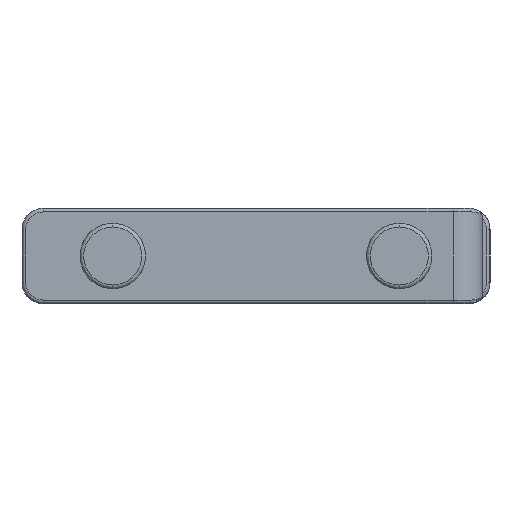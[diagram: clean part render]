
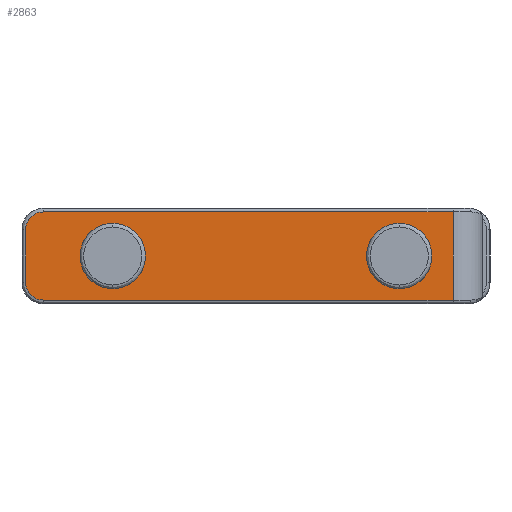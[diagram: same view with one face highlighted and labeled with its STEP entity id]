
A CAD part, left-side view. The second image highlights one B-rep face of the part: STEP entity #2863.
In plain terms, the highlighted planar face has unit normal (-1, 0, 0).
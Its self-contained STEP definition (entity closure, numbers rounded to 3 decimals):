
#63 = VERTEX_POINT ( 'NONE', #760 ) ;
#90 = EDGE_CURVE ( 'NONE', #100, #63, #841, .T. ) ;
#100 = VERTEX_POINT ( 'NONE', #823 ) ;
#127 = VERTEX_POINT ( 'NONE', #853 ) ;
#139 = EDGE_CURVE ( 'NONE', #141, #127, #889, .T. ) ;
#141 = VERTEX_POINT ( 'NONE', #880 ) ;
#207 = ORIENTED_EDGE ( 'NONE', *, *, #216, .T. ) ;
#211 = VERTEX_POINT ( 'NONE', #958 ) ;
#212 = VERTEX_POINT ( 'NONE', #957 ) ;
#214 = ORIENTED_EDGE ( 'NONE', *, *, #232, .T. ) ;
#215 = ORIENTED_EDGE ( 'NONE', *, *, #220, .T. ) ;
#216 = EDGE_CURVE ( 'NONE', #211, #223, #956, .T. ) ;
#219 = EDGE_CURVE ( 'NONE', #127, #141, #948, .T. ) ;
#220 = EDGE_CURVE ( 'NONE', #223, #2865, #940, .T. ) ;
#221 = EDGE_LOOP ( 'NONE', ( #222, #235 ) ) ;
#222 = ORIENTED_EDGE ( 'NONE', *, *, #219, .F. ) ;
#223 = VERTEX_POINT ( 'NONE', #998 ) ;
#232 = EDGE_CURVE ( 'NONE', #233, #212, #994, .T. ) ;
#233 = VERTEX_POINT ( 'NONE', #989 ) ;
#234 = EDGE_CURVE ( 'NONE', #212, #211, #987, .T. ) ;
#235 = ORIENTED_EDGE ( 'NONE', *, *, #139, .F. ) ;
#236 = ORIENTED_EDGE ( 'NONE', *, *, #234, .T. ) ;
#237 = EDGE_CURVE ( 'NONE', #2867, #233, #983, .T. ) ;
#760 = CARTESIAN_POINT ( 'NONE',  ( -433.2, 19.5, -4.45 ) ) ;
#823 = CARTESIAN_POINT ( 'NONE',  ( -433.2, 19.5, 4.45 ) ) ;
#827 = DIRECTION ( 'NONE',  ( 0., 0., -1. ) ) ;
#828 = DIRECTION ( 'NONE',  ( -1., 0., 0. ) ) ;
#829 = AXIS2_PLACEMENT_3D ( 'NONE', #843, #828, #827 ) ;
#841 = CIRCLE ( 'NONE', #829, 4.45 ) ;
#843 = CARTESIAN_POINT ( 'NONE',  ( -433.2, 19.5, 0. ) ) ;
#853 = CARTESIAN_POINT ( 'NONE',  ( -433.2, -19.5, -4.45 ) ) ;
#880 = CARTESIAN_POINT ( 'NONE',  ( -433.2, -19.5, 4.45 ) ) ;
#885 = DIRECTION ( 'NONE',  ( 0., 0., -1. ) ) ;
#886 = DIRECTION ( 'NONE',  ( -1., 0., 0. ) ) ;
#887 = CARTESIAN_POINT ( 'NONE',  ( -433.2, -19.5, 0. ) ) ;
#888 = AXIS2_PLACEMENT_3D ( 'NONE', #887, #886, #885 ) ;
#889 = CIRCLE ( 'NONE', #888, 4.45 ) ;
#939 = CARTESIAN_POINT ( 'NONE',  ( -433.2, -26.82, -6. ) ) ;
#940 = LINE ( 'NONE', #939, #1000 ) ;
#941 = DIRECTION ( 'NONE',  ( 0., 0., -1. ) ) ;
#942 = DIRECTION ( 'NONE',  ( -1., 0., 0. ) ) ;
#943 = CARTESIAN_POINT ( 'NONE',  ( -433.2, -19.5, 0. ) ) ;
#944 = AXIS2_PLACEMENT_3D ( 'NONE', #943, #942, #941 ) ;
#948 = CIRCLE ( 'NONE', #944, 4.45 ) ;
#952 = DIRECTION ( 'NONE',  ( 0., 0., -1. ) ) ;
#953 = DIRECTION ( 'NONE',  ( -1., 0., 0. ) ) ;
#954 = CARTESIAN_POINT ( 'NONE',  ( -433.2, 28.95, -3.6 ) ) ;
#955 = AXIS2_PLACEMENT_3D ( 'NONE', #954, #953, #952 ) ;
#956 = CIRCLE ( 'NONE', #955, 2.4 ) ;
#957 = CARTESIAN_POINT ( 'NONE',  ( -433.2, 31.35, 3.6 ) ) ;
#958 = CARTESIAN_POINT ( 'NONE',  ( -433.2, 31.35, -3.6 ) ) ;
#980 = DIRECTION ( 'NONE',  ( 0., 1., 0. ) ) ;
#981 = VECTOR ( 'NONE', #980, 1000. ) ;
#982 = CARTESIAN_POINT ( 'NONE',  ( -433.2, 28.95, 6. ) ) ;
#983 = LINE ( 'NONE', #982, #981 ) ;
#984 = DIRECTION ( 'NONE',  ( 0., 0., -1. ) ) ;
#985 = VECTOR ( 'NONE', #984, 1000. ) ;
#986 = CARTESIAN_POINT ( 'NONE',  ( -433.2, 31.35, -3.6 ) ) ;
#987 = LINE ( 'NONE', #986, #985 ) ;
#989 = CARTESIAN_POINT ( 'NONE',  ( -433.2, 28.95, 6. ) ) ;
#990 = DIRECTION ( 'NONE',  ( 0., 0., -1. ) ) ;
#991 = DIRECTION ( 'NONE',  ( -1., 0., 0. ) ) ;
#992 = CARTESIAN_POINT ( 'NONE',  ( -433.2, 28.95, 3.6 ) ) ;
#993 = AXIS2_PLACEMENT_3D ( 'NONE', #992, #991, #990 ) ;
#994 = CIRCLE ( 'NONE', #993, 2.4 ) ;
#998 = CARTESIAN_POINT ( 'NONE',  ( -433.2, 28.95, -6. ) ) ;
#999 = DIRECTION ( 'NONE',  ( 0., -1., 0. ) ) ;
#1000 = VECTOR ( 'NONE', #999, 1000. ) ;
#1970 = CARTESIAN_POINT ( 'NONE',  ( -433.2, -26.82, 6. ) ) ;
#1971 = CARTESIAN_POINT ( 'NONE',  ( -433.2, -26.82, -6. ) ) ;
#1972 = DIRECTION ( 'NONE',  ( 0., 0., -1. ) ) ;
#1973 = DIRECTION ( 'NONE',  ( 1., 0., 0. ) ) ;
#1974 = CARTESIAN_POINT ( 'NONE',  ( -433.2, -27.9, -2.9 ) ) ;
#1975 = AXIS2_PLACEMENT_3D ( 'NONE', #1974, #1973, #1972 ) ;
#1976 = PLANE ( 'NONE',  #1975 ) ;
#1977 = FACE_BOUND ( 'NONE', #221, .T. ) ;
#1978 = FACE_OUTER_BOUND ( 'NONE', #2868, .T. ) ;
#1979 = FACE_BOUND ( 'NONE', #2855, .T. ) ;
#2024 = DIRECTION ( 'NONE',  ( 0., 0., -1. ) ) ;
#2025 = DIRECTION ( 'NONE',  ( -1., 0., 0. ) ) ;
#2026 = CARTESIAN_POINT ( 'NONE',  ( -433.2, 19.5, 0. ) ) ;
#2027 = AXIS2_PLACEMENT_3D ( 'NONE', #2026, #2025, #2024 ) ;
#2028 = CIRCLE ( 'NONE', #2027, 4.45 ) ;
#2029 = DIRECTION ( 'NONE',  ( 0., 0., -1. ) ) ;
#2030 = VECTOR ( 'NONE', #2029, 1000. ) ;
#2031 = CARTESIAN_POINT ( 'NONE',  ( -433.2, -26.82, -7.5 ) ) ;
#2032 = LINE ( 'NONE', #2031, #2030 ) ;
#2855 = EDGE_LOOP ( 'NONE', ( #2862, #2871 ) ) ;
#2862 = ORIENTED_EDGE ( 'NONE', *, *, #2872, .F. ) ;
#2863 = ADVANCED_FACE ( 'NONE', ( #1979, #1978, #1977 ), #1976, .F. ) ;
#2865 = VERTEX_POINT ( 'NONE', #1971 ) ;
#2866 = ORIENTED_EDGE ( 'NONE', *, *, #237, .T. ) ;
#2867 = VERTEX_POINT ( 'NONE', #1970 ) ;
#2868 = EDGE_LOOP ( 'NONE', ( #2869, #2866, #214, #236, #207, #215 ) ) ;
#2869 = ORIENTED_EDGE ( 'NONE', *, *, #2870, .F. ) ;
#2870 = EDGE_CURVE ( 'NONE', #2867, #2865, #2032, .T. ) ;
#2871 = ORIENTED_EDGE ( 'NONE', *, *, #90, .F. ) ;
#2872 = EDGE_CURVE ( 'NONE', #63, #100, #2028, .T. ) ;
